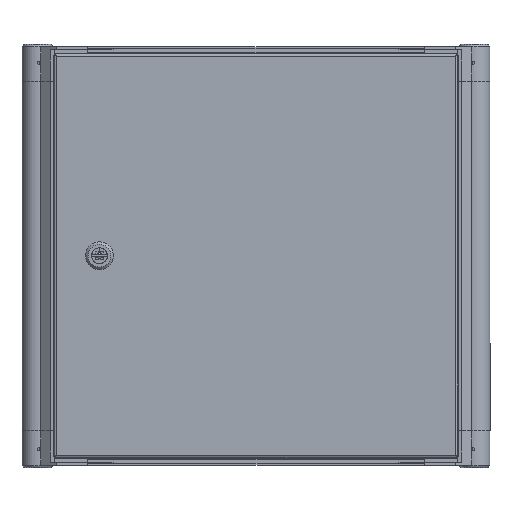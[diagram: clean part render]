
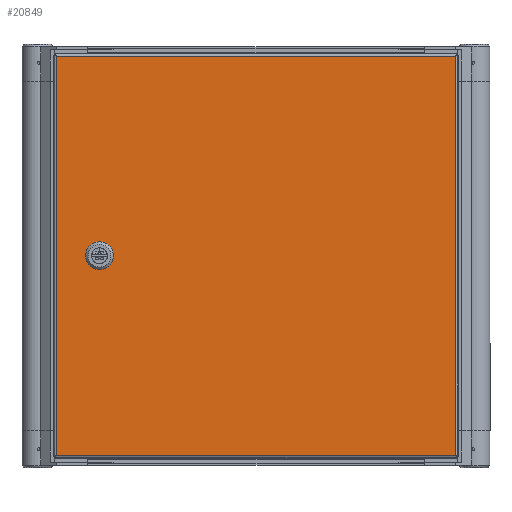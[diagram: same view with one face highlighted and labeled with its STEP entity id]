
A CAD part, front view. The second image highlights one B-rep face of the part: STEP entity #20849.
In plain terms, the highlighted planar face has unit normal (0, -1, 0).
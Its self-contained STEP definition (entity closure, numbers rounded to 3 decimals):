
#1757=LINE('',#31769,#3819);
#1758=LINE('',#31772,#3820);
#1759=LINE('',#31774,#3821);
#1760=LINE('',#31776,#3822);
#1761=LINE('',#31778,#3823);
#1762=LINE('',#31780,#3824);
#1763=LINE('',#31782,#3825);
#1764=LINE('',#31784,#3826);
#1765=LINE('',#31785,#3827);
#1766=LINE('',#31786,#3828);
#1767=LINE('',#31787,#3829);
#1768=LINE('',#31788,#3830);
#3819=VECTOR('',#26345,1000.);
#3820=VECTOR('',#26346,1000.);
#3821=VECTOR('',#26347,1000.);
#3822=VECTOR('',#26348,1000.);
#3823=VECTOR('',#26349,1000.);
#3824=VECTOR('',#26350,1000.);
#3825=VECTOR('',#26351,1000.);
#3826=VECTOR('',#26352,1000.);
#3827=VECTOR('',#26353,1000.);
#3828=VECTOR('',#26354,1000.);
#3829=VECTOR('',#26355,1000.);
#3830=VECTOR('',#26356,1000.);
#8346=ORIENTED_EDGE('',*,*,#12783,.F.);
#8347=ORIENTED_EDGE('',*,*,#12784,.F.);
#8348=ORIENTED_EDGE('',*,*,#12785,.F.);
#8349=ORIENTED_EDGE('',*,*,#12786,.F.);
#8350=ORIENTED_EDGE('',*,*,#12787,.F.);
#8351=ORIENTED_EDGE('',*,*,#12788,.F.);
#8352=ORIENTED_EDGE('',*,*,#12789,.F.);
#8353=ORIENTED_EDGE('',*,*,#12790,.F.);
#8354=ORIENTED_EDGE('',*,*,#12791,.T.);
#8355=ORIENTED_EDGE('',*,*,#12792,.T.);
#8356=ORIENTED_EDGE('',*,*,#12793,.T.);
#8357=ORIENTED_EDGE('',*,*,#12794,.T.);
#12783=EDGE_CURVE('',#15252,#15253,#1757,.T.);
#12784=EDGE_CURVE('',#15254,#15252,#1758,.T.);
#12785=EDGE_CURVE('',#15255,#15254,#1759,.T.);
#12786=EDGE_CURVE('',#15256,#15255,#1760,.T.);
#12787=EDGE_CURVE('',#15257,#15256,#1761,.T.);
#12788=EDGE_CURVE('',#15258,#15257,#1762,.T.);
#12789=EDGE_CURVE('',#15259,#15258,#1763,.T.);
#12790=EDGE_CURVE('',#15253,#15259,#1764,.T.);
#12791=EDGE_CURVE('',#15223,#15208,#1765,.T.);
#12792=EDGE_CURVE('',#15208,#15199,#1766,.T.);
#12793=EDGE_CURVE('',#15199,#15232,#1767,.T.);
#12794=EDGE_CURVE('',#15232,#15223,#1768,.T.);
#15199=VERTEX_POINT('',#31638);
#15208=VERTEX_POINT('',#31662);
#15223=VERTEX_POINT('',#31696);
#15232=VERTEX_POINT('',#31720);
#15252=VERTEX_POINT('',#31770);
#15253=VERTEX_POINT('',#31771);
#15254=VERTEX_POINT('',#31773);
#15255=VERTEX_POINT('',#31775);
#15256=VERTEX_POINT('',#31777);
#15257=VERTEX_POINT('',#31779);
#15258=VERTEX_POINT('',#31781);
#15259=VERTEX_POINT('',#31783);
#17356=EDGE_LOOP('',(#8346,#8347,#8348,#8349,#8350,#8351,#8352,#8353));
#17357=EDGE_LOOP('',(#8354,#8355,#8356,#8357));
#18709=FACE_BOUND('',#17356,.T.);
#18710=FACE_BOUND('',#17357,.T.);
#19775=PLANE('',#22572);
#20849=ADVANCED_FACE('',(#18709,#18710),#19775,.T.);
#22572=AXIS2_PLACEMENT_3D('',#31768,#26343,#26344);
#26343=DIRECTION('',(0.,-1.,0.));
#26344=DIRECTION('',(0.,0.,-1.));
#26345=DIRECTION('',(-1.,0.,0.));
#26346=DIRECTION('',(-0.707,0.,0.707));
#26347=DIRECTION('',(0.,0.,1.));
#26348=DIRECTION('',(0.707,0.,0.707));
#26349=DIRECTION('',(1.,0.,0.));
#26350=DIRECTION('',(0.707,0.,-0.707));
#26351=DIRECTION('',(0.,0.,-1.));
#26352=DIRECTION('',(-0.707,0.,-0.707));
#26353=DIRECTION('',(0.,0.,-1.));
#26354=DIRECTION('',(1.,0.,0.));
#26355=DIRECTION('',(0.,0.,1.));
#26356=DIRECTION('',(-1.,0.,0.));
#31638=CARTESIAN_POINT('',(200.622,0.,-200.622));
#31662=CARTESIAN_POINT('',(-200.622,0.,-200.622));
#31696=CARTESIAN_POINT('',(-200.622,0.,200.622));
#31720=CARTESIAN_POINT('',(200.622,0.,200.622));
#31768=CARTESIAN_POINT('',(-200.622,0.,-200.622));
#31769=CARTESIAN_POINT('',(163.055,0.,10.046));
#31770=CARTESIAN_POINT('',(163.055,0.,10.046));
#31771=CARTESIAN_POINT('',(151.321,0.,10.046));
#31772=CARTESIAN_POINT('',(163.055,0.,10.046));
#31773=CARTESIAN_POINT('',(167.234,0.,5.867));
#31774=CARTESIAN_POINT('',(167.234,0.,-5.867));
#31775=CARTESIAN_POINT('',(167.234,0.,-5.867));
#31776=CARTESIAN_POINT('',(167.234,0.,-5.867));
#31777=CARTESIAN_POINT('',(163.055,0.,-10.046));
#31778=CARTESIAN_POINT('',(151.321,0.,-10.046));
#31779=CARTESIAN_POINT('',(151.321,0.,-10.046));
#31780=CARTESIAN_POINT('',(147.142,0.,-5.867));
#31781=CARTESIAN_POINT('',(147.142,0.,-5.867));
#31782=CARTESIAN_POINT('',(147.142,0.,5.867));
#31783=CARTESIAN_POINT('',(147.142,0.,5.867));
#31784=CARTESIAN_POINT('',(151.321,0.,10.046));
#31785=CARTESIAN_POINT('',(-200.622,0.,200.622));
#31786=CARTESIAN_POINT('',(-200.622,0.,-200.622));
#31787=CARTESIAN_POINT('',(200.622,0.,-200.622));
#31788=CARTESIAN_POINT('',(200.622,0.,200.622));
